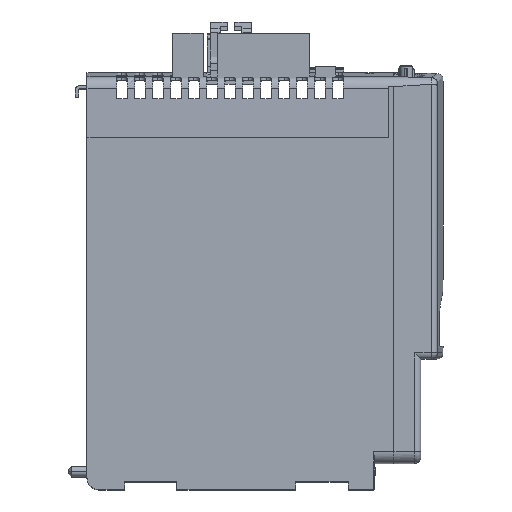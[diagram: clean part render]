
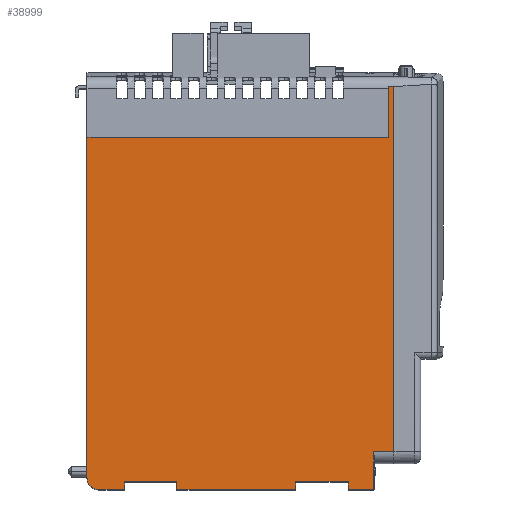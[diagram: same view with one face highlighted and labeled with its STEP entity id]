
A CAD part, top view. The second image highlights one B-rep face of the part: STEP entity #38999.
In plain terms, the highlighted planar face has unit normal (0, 0, 1).
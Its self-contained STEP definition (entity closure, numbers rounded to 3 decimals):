
#10686 = LINE ( 'NONE', #11357, #11356 ) ;
#11356 = VECTOR ( 'NONE', #11448, 1000. ) ;
#11357 = CARTESIAN_POINT ( 'NONE',  ( 61.025, 72.318, 59.671 ) ) ;
#11448 = DIRECTION ( 'NONE',  ( 0., 1., 0. ) ) ;
#37764 = ORIENTED_EDGE ( 'NONE', *, *, #39028, .T. ) ;
#38608 = ORIENTED_EDGE ( 'NONE', *, *, #38853, .F. ) ;
#38849 = VERTEX_POINT ( 'NONE', #56155 ) ;
#38853 = EDGE_CURVE ( 'NONE', #38849, #38988, #56147, .T. ) ;
#38882 = EDGE_CURVE ( 'NONE', #38914, #38899, #56245, .T. ) ;
#38899 = VERTEX_POINT ( 'NONE', #56223 ) ;
#38914 = VERTEX_POINT ( 'NONE', #56275 ) ;
#38925 = VERTEX_POINT ( 'NONE', #56291 ) ;
#38927 = VERTEX_POINT ( 'NONE', #56300 ) ;
#38939 = VERTEX_POINT ( 'NONE', #56319 ) ;
#38957 = EDGE_CURVE ( 'NONE', #39032, #39030, #56357, .T. ) ;
#38958 = ORIENTED_EDGE ( 'NONE', *, *, #38960, .F. ) ;
#38960 = EDGE_CURVE ( 'NONE', #38965, #39029, #56361, .T. ) ;
#38962 = ORIENTED_EDGE ( 'NONE', *, *, #38963, .T. ) ;
#38963 = EDGE_CURVE ( 'NONE', #38965, #39032, #56371, .T. ) ;
#38965 = VERTEX_POINT ( 'NONE', #56348 ) ;
#38966 = ORIENTED_EDGE ( 'NONE', *, *, #38970, .T. ) ;
#38968 = ORIENTED_EDGE ( 'NONE', *, *, #38981, .T. ) ;
#38969 = EDGE_CURVE ( 'NONE', #38925, #38986, #56397, .T. ) ;
#38970 = EDGE_CURVE ( 'NONE', #38925, #38988, #56352, .T. ) ;
#38971 = ORIENTED_EDGE ( 'NONE', *, *, #38978, .T. ) ;
#38973 = ORIENTED_EDGE ( 'NONE', *, *, #38998, .F. ) ;
#38974 = EDGE_CURVE ( 'NONE', #38992, #38939, #56390, .T. ) ;
#38975 = ORIENTED_EDGE ( 'NONE', *, *, #38969, .F. ) ;
#38977 = ORIENTED_EDGE ( 'NONE', *, *, #38974, .T. ) ;
#38978 = EDGE_CURVE ( 'NONE', #38939, #38899, #56351, .T. ) ;
#38979 = EDGE_CURVE ( 'NONE', #38914, #38985, #56381, .T. ) ;
#38980 = ORIENTED_EDGE ( 'NONE', *, *, #38882, .F. ) ;
#38981 = EDGE_CURVE ( 'NONE', #38984, #38986, #56377, .T. ) ;
#38982 = ORIENTED_EDGE ( 'NONE', *, *, #38979, .T. ) ;
#38984 = VERTEX_POINT ( 'NONE', #55958 ) ;
#38985 = VERTEX_POINT ( 'NONE', #56393 ) ;
#38986 = VERTEX_POINT ( 'NONE', #56385 ) ;
#38987 = EDGE_CURVE ( 'NONE', #38984, #38985, #10686, .T. ) ;
#38988 = VERTEX_POINT ( 'NONE', #56421 ) ;
#38989 = ORIENTED_EDGE ( 'NONE', *, *, #38987, .F. ) ;
#38992 = VERTEX_POINT ( 'NONE', #56412 ) ;
#38993 = EDGE_LOOP ( 'NONE', ( #38973, #38977, #38971, #38980, #38982, #38989, #38968, #38975, #38966, #38608, #37764, #39035, #39034, #38958, #38962, #39015, #39019 ) ) ;
#38998 = EDGE_CURVE ( 'NONE', #38992, #38927, #56406, .T. ) ;
#38999 = ADVANCED_FACE ( 'NONE', ( #56449 ), #56411, .F. ) ;
#39015 = ORIENTED_EDGE ( 'NONE', *, *, #38957, .T. ) ;
#39019 = ORIENTED_EDGE ( 'NONE', *, *, #39037, .T. ) ;
#39028 = EDGE_CURVE ( 'NONE', #38849, #39033, #56461, .T. ) ;
#39029 = VERTEX_POINT ( 'NONE', #56454 ) ;
#39030 = VERTEX_POINT ( 'NONE', #56508 ) ;
#39031 = VERTEX_POINT ( 'NONE', #56503 ) ;
#39032 = VERTEX_POINT ( 'NONE', #56507 ) ;
#39033 = VERTEX_POINT ( 'NONE', #56504 ) ;
#39034 = ORIENTED_EDGE ( 'NONE', *, *, #39036, .T. ) ;
#39035 = ORIENTED_EDGE ( 'NONE', *, *, #39038, .T. ) ;
#39036 = EDGE_CURVE ( 'NONE', #39031, #39029, #56501, .T. ) ;
#39037 = EDGE_CURVE ( 'NONE', #39030, #38927, #56495, .T. ) ;
#39038 = EDGE_CURVE ( 'NONE', #39033, #39031, #56491, .T. ) ;
#55958 = CARTESIAN_POINT ( 'NONE',  ( 61.025, 72.318, 59.671 ) ) ;
#56144 = DIRECTION ( 'NONE',  ( -1., 0., 0. ) ) ;
#56145 = VECTOR ( 'NONE', #56144, 1000. ) ;
#56146 = CARTESIAN_POINT ( 'NONE',  ( 328.959, -101.733, 59.671 ) ) ;
#56147 = LINE ( 'NONE', #56146, #56145 ) ;
#56155 = CARTESIAN_POINT ( 'NONE',  ( -69.433, -101.733, 59.671 ) ) ;
#56223 = CARTESIAN_POINT ( 'NONE',  ( 63.565, -83.109, 59.671 ) ) ;
#56242 = DIRECTION ( 'NONE',  ( 0., -1., 0. ) ) ;
#56243 = VECTOR ( 'NONE', #56242, 1000. ) ;
#56244 = CARTESIAN_POINT ( 'NONE',  ( 63.565, 0., 59.671 ) ) ;
#56245 = LINE ( 'NONE', #56244, #56243 ) ;
#56275 = CARTESIAN_POINT ( 'NONE',  ( 63.565, 97.262, 59.671 ) ) ;
#56291 = CARTESIAN_POINT ( 'NONE',  ( -88., -95.942, 59.671 ) ) ;
#56300 = CARTESIAN_POINT ( 'NONE',  ( 40.934, -101.733, 59.671 ) ) ;
#56319 = CARTESIAN_POINT ( 'NONE',  ( 53.354, -83.109, 59.671 ) ) ;
#56348 = CARTESIAN_POINT ( 'NONE',  ( 15.102, -101.733, 59.671 ) ) ;
#56349 = DIRECTION ( 'NONE',  ( -1., 0., 0. ) ) ;
#56350 = VECTOR ( 'NONE', #56349, 1000. ) ;
#56351 = LINE ( 'NONE', #56384, #56383 ) ;
#56352 = CIRCLE ( 'NONE', #56359, 5.791 ) ;
#56354 = DIRECTION ( 'NONE',  ( 1., 0., 0. ) ) ;
#56355 = VECTOR ( 'NONE', #56354, 1000. ) ;
#56356 = CARTESIAN_POINT ( 'NONE',  ( 40.934, -97.821, 59.671 ) ) ;
#56357 = LINE ( 'NONE', #56356, #56355 ) ;
#56359 = AXIS2_PLACEMENT_3D ( 'NONE', #56398, #56392, #56391 ) ;
#56360 = CARTESIAN_POINT ( 'NONE',  ( 328.959, -101.733, 59.671 ) ) ;
#56361 = LINE ( 'NONE', #56360, #56350 ) ;
#56371 = LINE ( 'NONE', #56401, #56400 ) ;
#56374 = DIRECTION ( 'NONE',  ( -1., 0., 0. ) ) ;
#56375 = VECTOR ( 'NONE', #56374, 1000. ) ;
#56376 = CARTESIAN_POINT ( 'NONE',  ( 93.232, 72.318, 59.671 ) ) ;
#56377 = LINE ( 'NONE', #56376, #56375 ) ;
#56378 = DIRECTION ( 'NONE',  ( -1., 0., 0. ) ) ;
#56379 = VECTOR ( 'NONE', #56378, 1000. ) ;
#56380 = CARTESIAN_POINT ( 'NONE',  ( 63.565, 97.262, 59.671 ) ) ;
#56381 = LINE ( 'NONE', #56380, #56379 ) ;
#56382 = DIRECTION ( 'NONE',  ( 1., 0., 0. ) ) ;
#56383 = VECTOR ( 'NONE', #56382, 1000. ) ;
#56384 = CARTESIAN_POINT ( 'NONE',  ( 63.565, -83.109, 59.671 ) ) ;
#56385 = CARTESIAN_POINT ( 'NONE',  ( -88., 72.318, 59.671 ) ) ;
#56386 = DIRECTION ( 'NONE',  ( 0., 1., 0. ) ) ;
#56387 = VECTOR ( 'NONE', #56386, 1000. ) ;
#56389 = CARTESIAN_POINT ( 'NONE',  ( 53.354, -83.109, 59.671 ) ) ;
#56390 = LINE ( 'NONE', #56389, #56387 ) ;
#56391 = DIRECTION ( 'NONE',  ( 0., 1., 0. ) ) ;
#56392 = DIRECTION ( 'NONE',  ( 0., 0., 1. ) ) ;
#56393 = CARTESIAN_POINT ( 'NONE',  ( 61.025, 97.262, 59.671 ) ) ;
#56394 = DIRECTION ( 'NONE',  ( 0., 1., 0. ) ) ;
#56395 = VECTOR ( 'NONE', #56394, 1000. ) ;
#56396 = CARTESIAN_POINT ( 'NONE',  ( -88., 101.981, 59.671 ) ) ;
#56397 = LINE ( 'NONE', #56396, #56395 ) ;
#56398 = CARTESIAN_POINT ( 'NONE',  ( -82.209, -95.942, 59.671 ) ) ;
#56399 = DIRECTION ( 'NONE',  ( 0., 1., 0. ) ) ;
#56400 = VECTOR ( 'NONE', #56399, 1000. ) ;
#56401 = CARTESIAN_POINT ( 'NONE',  ( 15.102, -101.733, 59.671 ) ) ;
#56406 = LINE ( 'NONE', #56448, #56447 ) ;
#56411 = PLANE ( 'NONE',  #56445 ) ;
#56412 = CARTESIAN_POINT ( 'NONE',  ( 53.354, -101.733, 59.671 ) ) ;
#56421 = CARTESIAN_POINT ( 'NONE',  ( -82.209, -101.733, 59.671 ) ) ;
#56422 = CARTESIAN_POINT ( 'NONE',  ( 328.959, 101.981, 59.671 ) ) ;
#56441 = DIRECTION ( 'NONE',  ( 0., 1., 0. ) ) ;
#56442 = DIRECTION ( 'NONE',  ( 0., 0., -1. ) ) ;
#56445 = AXIS2_PLACEMENT_3D ( 'NONE', #56422, #56442, #56441 ) ;
#56446 = DIRECTION ( 'NONE',  ( -1., 0., 0. ) ) ;
#56447 = VECTOR ( 'NONE', #56446, 1000. ) ;
#56448 = CARTESIAN_POINT ( 'NONE',  ( 328.959, -101.733, 59.671 ) ) ;
#56449 = FACE_OUTER_BOUND ( 'NONE', #38993, .T. ) ;
#56454 = CARTESIAN_POINT ( 'NONE',  ( -43.601, -101.733, 59.671 ) ) ;
#56461 = LINE ( 'NONE', #56467, #56506 ) ;
#56467 = CARTESIAN_POINT ( 'NONE',  ( -69.433, -101.733, 59.671 ) ) ;
#56487 = DIRECTION ( 'NONE',  ( 1., 0., 0. ) ) ;
#56488 = VECTOR ( 'NONE', #56487, 1000. ) ;
#56489 = CARTESIAN_POINT ( 'NONE',  ( -43.601, -97.821, 59.671 ) ) ;
#56491 = LINE ( 'NONE', #56489, #56488 ) ;
#56492 = DIRECTION ( 'NONE',  ( 0., -1., 0. ) ) ;
#56493 = VECTOR ( 'NONE', #56492, 1000. ) ;
#56494 = CARTESIAN_POINT ( 'NONE',  ( 40.934, -101.733, 59.671 ) ) ;
#56495 = LINE ( 'NONE', #56494, #56493 ) ;
#56496 = DIRECTION ( 'NONE',  ( 0., -1., 0. ) ) ;
#56497 = VECTOR ( 'NONE', #56496, 1000. ) ;
#56500 = CARTESIAN_POINT ( 'NONE',  ( -43.601, -101.733, 59.671 ) ) ;
#56501 = LINE ( 'NONE', #56500, #56497 ) ;
#56503 = CARTESIAN_POINT ( 'NONE',  ( -43.601, -97.821, 59.671 ) ) ;
#56504 = CARTESIAN_POINT ( 'NONE',  ( -69.433, -97.821, 59.671 ) ) ;
#56505 = DIRECTION ( 'NONE',  ( 0., 1., 0. ) ) ;
#56506 = VECTOR ( 'NONE', #56505, 1000. ) ;
#56507 = CARTESIAN_POINT ( 'NONE',  ( 15.102, -97.821, 59.671 ) ) ;
#56508 = CARTESIAN_POINT ( 'NONE',  ( 40.934, -97.821, 59.671 ) ) ;
